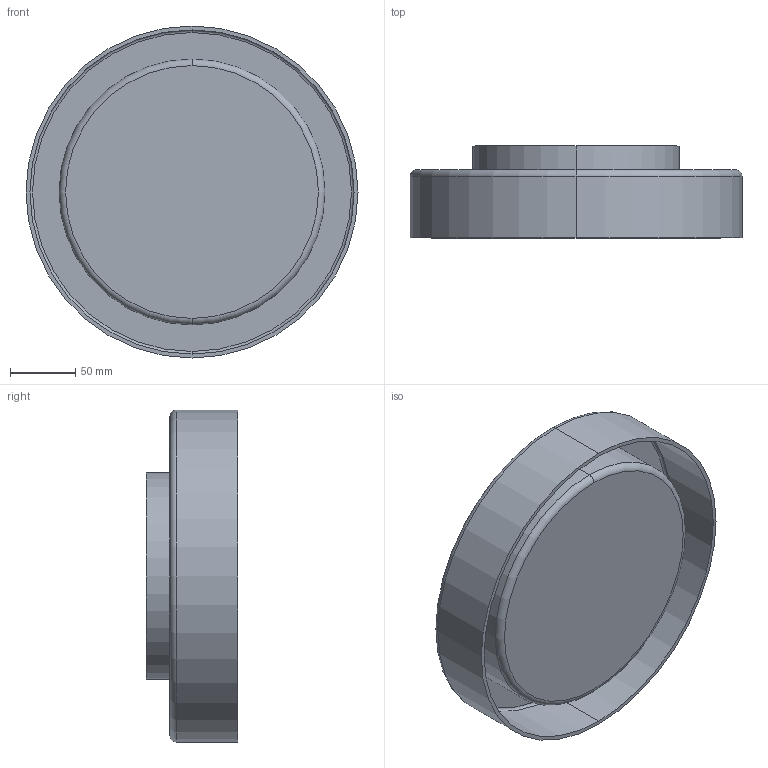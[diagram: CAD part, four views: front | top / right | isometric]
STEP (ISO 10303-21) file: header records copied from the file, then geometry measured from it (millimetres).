
FILE_DESCRIPTION (( 'STEP AP203' ), '1' );
FILE_NAME ('FM48610.STEP', '2023-08-04T18:34:05', ( '' ), ( '' ), 'SwSTEP 2.0', 'SolidWorks 2018', '' );
FILE_SCHEMA (( 'CONFIG_CONTROL_DESIGN' ));
Length unit declared in the file: millimetre
Products named in the file (1): FM48610
Bounding box: 253.84 x 70.21 x 253.84 mm (x, y, z)
Volume: 467437.1 mm3; surface area: 291438.5 mm2
Topology: 2 solids, 2 shells, 39 faces, 76 edges, 44 vertices
Faces by surface type: torus 16, cylinder 12, plane 7, cone 4
Entity records: 1089 total; most frequent: DIRECTION 216, CARTESIAN_POINT 160, ORIENTED_EDGE 152, AXIS2_PLACEMENT_3D 100, EDGE_CURVE 76, CIRCLE 60, EDGE_LOOP 44, VERTEX_POINT 44
